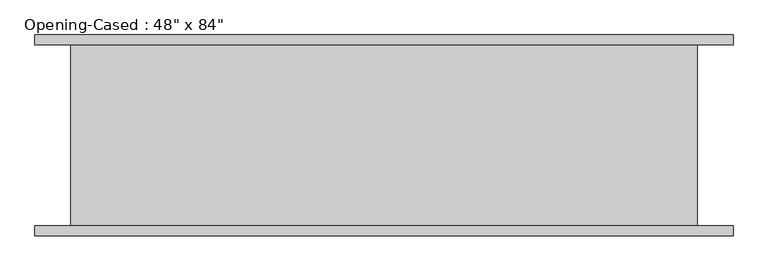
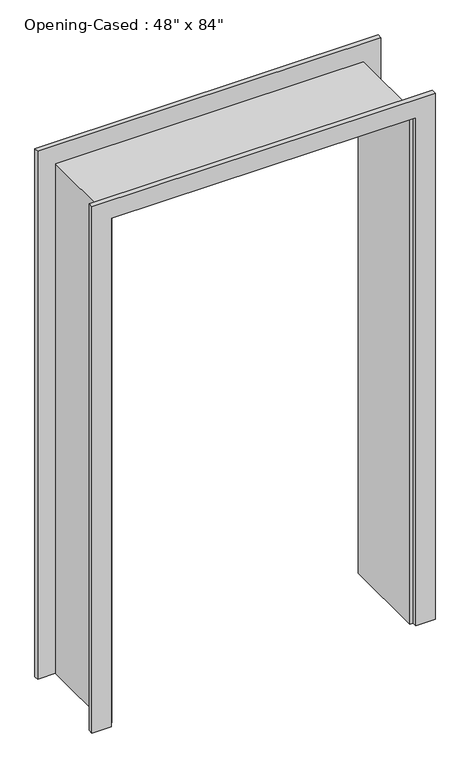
"""IFC4 building model written with IfcOpenShell, lengths in millimetres: proxy geometry."""

from ifc_helpers import new_model, si_unit, frame, origin, place, context, project, spatial, polyline, outline, extrude, faceted_brep, source, transform, mapped, element, save


def proxy_c3589814(model_context):
    return source(origin(), model_context, "Body", "SolidModel", [
        extrude(outline(polyline([(0.0, -611.4386567), (2127.25, -611.4386567), (2127.25, 595.0613433), (0.0, 595.0613433), (0.0, 671.2613433), (2203.45, 671.2613433), (2203.45, -687.6386567), (0.0, -687.6386567), (0.0, -611.4386567)])), frame((0.0, -195.2625, 0.0), z_axis=(0.0, 1.0, 0.0), x_axis=(0.0, 0.0, 1.0)), (0.0, 0.0, 1.0), 19.05),
        extrude(outline(polyline([(0.0, 671.2613433), (2209.8, 671.2613433), (2209.8, -687.6386567), (0.0, -687.6386567), (0.0, -611.4386567), (2127.25, -611.4386567), (2127.25, 595.0613433), (0.0, 595.0613433), (0.0, 671.2613433)])), frame((0.0, 176.2125, 0.0), z_axis=(0.0, 1.0, 0.0), x_axis=(0.0, 0.0, 1.0)), (0.0, 0.0, 1.0), 19.05),
        faceted_brep([(582.3613433, 176.2125, 0.0), (601.4113433, 176.2125, 0.0), (601.4113433, -176.2125, 0.0), (582.3613433, -176.2125, 0.0), (582.3613433, 176.2125, 2114.55), (601.4113433, 176.2125, 2133.6), (601.4113433, -176.2125, 2133.6), (582.3613433, -176.2125, 2114.55), (-598.7386567, 176.2125, 2114.55), (-617.7886567, 176.2125, 2133.6), (-617.7886567, -176.2125, 2133.6), (-598.7386567, -176.2125, 2114.55), (-598.7386567, 176.2125, 0.0), (-598.7386567, -176.2125, 0.0), (-617.7886567, -176.2125, 0.0), (-617.7886567, 176.2125, 0.0)], [[[0, 1, 2, 3]], [[1, 0, 4, 5]], [[2, 1, 5, 6]], [[3, 2, 6, 7]], [[0, 3, 7, 4]], [[5, 4, 8, 9]], [[6, 5, 9, 10]], [[7, 6, 10, 11]], [[4, 7, 11, 8]], [[12, 13, 14, 15]], [[9, 8, 12, 15]], [[10, 9, 15, 14]], [[11, 10, 14, 13]], [[8, 11, 13, 12]]]),
    ])


if __name__ == "__main__":
    model = new_model("IFC4")
    model_context = context("Model", 3, world=origin())
    ifc_project = project(units=[si_unit("LENGTHUNIT", "METRE", prefix="MILLI")], contexts=[model_context])
    site = spatial("IfcSite", under=ifc_project)
    building = spatial("IfcBuilding", under=site)
    placement = place(None, origin())
    proxy_shape = proxy_c3589814(model_context)
    element("IfcBuildingElementProxy", 1, Name="Opening-Cased : 48\" x 84\"", ObjectType="Opening-Cased : 48\" x 84\"", at=placement, inside=building, context=model_context, shape_type="MappedRepresentation", body=[
        mapped(proxy_shape, transform((0.0, 0.0, 0.0), x_axis=(1.0, 0.0, 0.0), y_axis=(0.0, 1.0, 0.0), z_axis=(0.0, 0.0, 1.0))),
    ])
    save(model, "model.ifc")
